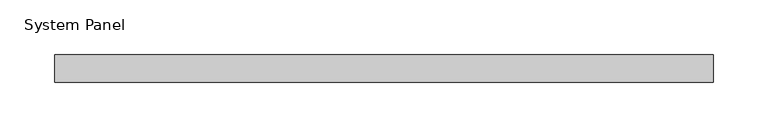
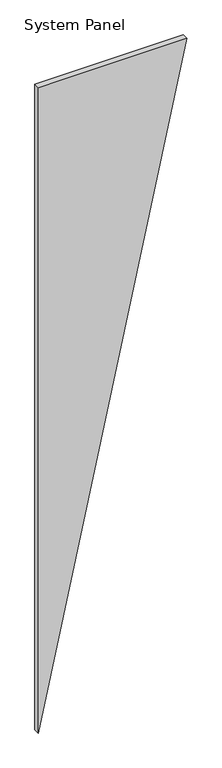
"""IFC4 building model written with IfcOpenShell, lengths in millimetres: plate geometry, System Panel : Purline 25mm Vertical - Plain RHEA - PUR."""

from ifc_helpers import new_model, si_unit, frame, origin, place, context, project, spatial, polyline, outline, extrude, source, transform, mapped, element, save


def system_panel_3975b668(model_context):
    return source(origin(), model_context, "Body", "SweptSolid", [
        extrude(outline(polyline([(2759.9778178, -300.0), (0.0, -300.0), (2759.9778178, 300.0), (2759.9778178, -300.0)])), frame((0.0, -25.0, 0.0), z_axis=(0.0, 1.0, 0.0), x_axis=(0.0, 0.0, 1.0)), (0.0, 0.0, 1.0), 25.0),
    ])


if __name__ == "__main__":
    model = new_model("IFC4")
    model_context = context("Model", 3, world=origin())
    ifc_project = project(units=[si_unit("LENGTHUNIT", "METRE", prefix="MILLI")], contexts=[model_context])
    site = spatial("IfcSite", under=ifc_project)
    building = spatial("IfcBuilding", under=site)
    placement = place(None, origin())
    system_panel_shape = system_panel_3975b668(model_context)
    element("IfcPlate", 1, ObjectType="System Panel : Purline 25mm Vertical - Plain RHEA - PUR", at=placement, inside=building, context=model_context, shape_type="MappedRepresentation", body=[
        mapped(system_panel_shape, transform((0.0, 0.0, 0.0), x_axis=(1.0, 0.0, 0.0), y_axis=(0.0, 1.0, 0.0), z_axis=(0.0, 0.0, 1.0))),
    ])
    save(model, "model.ifc")
